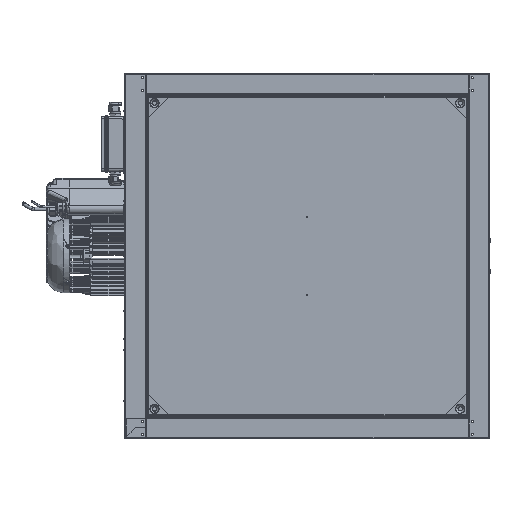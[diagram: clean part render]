
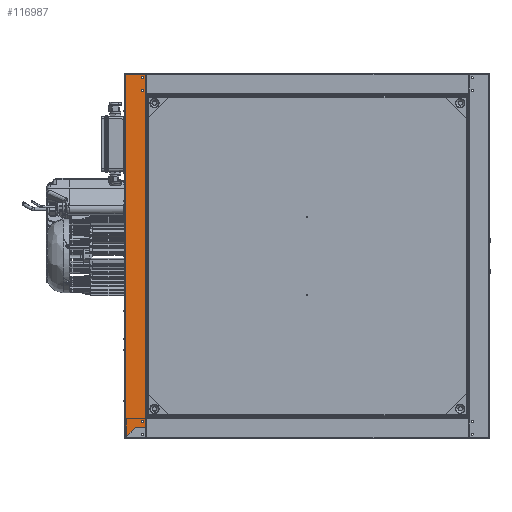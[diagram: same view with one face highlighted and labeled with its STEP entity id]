
A CAD part, left-side view. The second image highlights one B-rep face of the part: STEP entity #116987.
In plain terms, the highlighted planar face has unit normal (-1, 0, 0).
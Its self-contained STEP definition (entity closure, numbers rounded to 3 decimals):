
#923 = VECTOR ( 'NONE', #6390, 1000. ) ;
#1527 = CARTESIAN_POINT ( 'NONE',  ( -350., 310.2, -310.05 ) ) ;
#2945 = AXIS2_PLACEMENT_3D ( 'NONE', #34840, #105318, #44980 ) ;
#3249 = CIRCLE ( 'NONE', #32728, 2.1 ) ;
#5318 = VERTEX_POINT ( 'NONE', #51610 ) ;
#6390 = DIRECTION ( 'NONE',  ( 0., 0.707, -0.707 ) ) ;
#6553 = CIRCLE ( 'NONE', #41898, 2.1 ) ;
#7626 = VECTOR ( 'NONE', #96916, 1000. ) ;
#8737 = VECTOR ( 'NONE', #67823, 1000. ) ;
#9798 = LINE ( 'NONE', #76031, #57072 ) ;
#11147 = VECTOR ( 'NONE', #127526, 1000. ) ;
#11210 = CARTESIAN_POINT ( 'NONE',  ( -350., 316., -317.2 ) ) ;
#11415 = FACE_BOUND ( 'NONE', #79589, .T. ) ;
#11701 = EDGE_CURVE ( 'NONE', #67293, #106055, #92347, .T. ) ;
#11927 = LINE ( 'NONE', #47643, #8737 ) ;
#13214 = CARTESIAN_POINT ( 'NONE',  ( -350., 310.7, 348.95 ) ) ;
#14796 = CIRCLE ( 'NONE', #121477, 2.1 ) ;
#16311 = CARTESIAN_POINT ( 'NONE',  ( -350., 313.9, 341.7 ) ) ;
#18027 = CARTESIAN_POINT ( 'NONE',  ( -350., 348., -347.35 ) ) ;
#18973 = CARTESIAN_POINT ( 'NONE',  ( -350., 316., -317.2 ) ) ;
#19195 = CIRCLE ( 'NONE', #89581, 2.1 ) ;
#19595 = CARTESIAN_POINT ( 'NONE',  ( -350., 310.2, 348. ) ) ;
#20162 = VERTEX_POINT ( 'NONE', #43214 ) ;
#20705 = EDGE_CURVE ( 'NONE', #20162, #80053, #118318, .T. ) ;
#21312 = DIRECTION ( 'NONE',  ( 0., -1., 0. ) ) ;
#21440 = DIRECTION ( 'NONE',  ( -1., 0., 0. ) ) ;
#23270 = CARTESIAN_POINT ( 'NONE',  ( -350., 310.7, -310.05 ) ) ;
#23727 = CARTESIAN_POINT ( 'NONE',  ( -350., 310.7, -310.05 ) ) ;
#23754 = VERTEX_POINT ( 'NONE', #124963 ) ;
#29120 = DIRECTION ( 'NONE',  ( 0., -1., 0. ) ) ;
#29256 = EDGE_CURVE ( 'NONE', #73422, #23754, #6553, .T. ) ;
#32728 = AXIS2_PLACEMENT_3D ( 'NONE', #99253, #38929, #109416 ) ;
#33635 = VERTEX_POINT ( 'NONE', #128234 ) ;
#34281 = ORIENTED_EDGE ( 'NONE', *, *, #118857, .T. ) ;
#34840 = CARTESIAN_POINT ( 'NONE',  ( -350., 316., 317.2 ) ) ;
#36378 = CARTESIAN_POINT ( 'NONE',  ( -350., 310.2, -329.1 ) ) ;
#38929 = DIRECTION ( 'NONE',  ( -1., 0., 0. ) ) ;
#39535 = VECTOR ( 'NONE', #84051, 1000. ) ;
#40386 = EDGE_CURVE ( 'NONE', #5318, #44841, #64369, .T. ) ;
#40723 = EDGE_CURVE ( 'NONE', #96062, #84765, #86353, .T. ) ;
#40969 = CARTESIAN_POINT ( 'NONE',  ( -350., 310.2, -329.1 ) ) ;
#41898 = AXIS2_PLACEMENT_3D ( 'NONE', #18973, #89435, #29120 ) ;
#43214 = CARTESIAN_POINT ( 'NONE',  ( -350., 329.75, -329.1 ) ) ;
#44841 = VERTEX_POINT ( 'NONE', #128829 ) ;
#44980 = DIRECTION ( 'NONE',  ( 0., -1., 0. ) ) ;
#45624 = CARTESIAN_POINT ( 'NONE',  ( -350., 318.1, 341.7 ) ) ;
#45699 = DIRECTION ( 'NONE',  ( 0., 0., 1. ) ) ;
#46760 = CARTESIAN_POINT ( 'NONE',  ( -350., 310.7, 311.65 ) ) ;
#47643 = CARTESIAN_POINT ( 'NONE',  ( -350., 348., 348.95 ) ) ;
#51493 = EDGE_CURVE ( 'NONE', #44841, #33635, #9798, .T. ) ;
#51610 = CARTESIAN_POINT ( 'NONE',  ( -350., 310.7, 311.65 ) ) ;
#54513 = ORIENTED_EDGE ( 'NONE', *, *, #104715, .F. ) ;
#54528 = ORIENTED_EDGE ( 'NONE', *, *, #11701, .F. ) ;
#54573 = LINE ( 'NONE', #76843, #923 ) ;
#54627 = CARTESIAN_POINT ( 'NONE',  ( -350., 348., 348. ) ) ;
#54773 = DIRECTION ( 'NONE',  ( -1., 0., 0. ) ) ;
#55472 = CARTESIAN_POINT ( 'NONE',  ( -350., 310.2, -310.05 ) ) ;
#57072 = VECTOR ( 'NONE', #45699, 1000. ) ;
#57321 = DIRECTION ( 'NONE',  ( 0., 1., 0. ) ) ;
#57560 = EDGE_CURVE ( 'NONE', #129336, #107900, #19195, .T. ) ;
#59291 = VECTOR ( 'NONE', #60120, 1000. ) ;
#59482 = ORIENTED_EDGE ( 'NONE', *, *, #109163, .F. ) ;
#60120 = DIRECTION ( 'NONE',  ( 0., 1., 0. ) ) ;
#61826 = FACE_OUTER_BOUND ( 'NONE', #87193, .T. ) ;
#61932 = DIRECTION ( 'NONE',  ( 0., 0., 1. ) ) ;
#64369 = LINE ( 'NONE', #46760, #7626 ) ;
#64948 = FACE_BOUND ( 'NONE', #85017, .T. ) ;
#65047 = EDGE_CURVE ( 'NONE', #23754, #73422, #14796, .T. ) ;
#66223 = LINE ( 'NONE', #13214, #39535 ) ;
#67293 = VERTEX_POINT ( 'NONE', #82964 ) ;
#67745 = VECTOR ( 'NONE', #61932, 1000. ) ;
#67823 = DIRECTION ( 'NONE',  ( 0., 0., -1. ) ) ;
#68340 = ORIENTED_EDGE ( 'NONE', *, *, #65047, .F. ) ;
#69213 = EDGE_CURVE ( 'NONE', #89131, #109767, #11927, .T. ) ;
#69972 = CIRCLE ( 'NONE', #2945, 2.1 ) ;
#73422 = VERTEX_POINT ( 'NONE', #102348 ) ;
#75691 = ORIENTED_EDGE ( 'NONE', *, *, #51493, .T. ) ;
#76031 = CARTESIAN_POINT ( 'NONE',  ( -350., 310.2, 311.65 ) ) ;
#76403 = ORIENTED_EDGE ( 'NONE', *, *, #40723, .T. ) ;
#76843 = CARTESIAN_POINT ( 'NONE',  ( -350., 349.1, -348.45 ) ) ;
#76880 = ORIENTED_EDGE ( 'NONE', *, *, #57560, .F. ) ;
#79589 = EDGE_LOOP ( 'NONE', ( #76880, #59482 ) ) ;
#80053 = VERTEX_POINT ( 'NONE', #40969 ) ;
#81650 = DIRECTION ( 'NONE',  ( -1., 0., 0. ) ) ;
#81791 = CARTESIAN_POINT ( 'NONE',  ( -350., 316., 317.2 ) ) ;
#82260 = EDGE_CURVE ( 'NONE', #106055, #67293, #69972, .T. ) ;
#82964 = CARTESIAN_POINT ( 'NONE',  ( -350., 318.1, 317.2 ) ) ;
#83212 = VECTOR ( 'NONE', #93747, 1000. ) ;
#83316 = ORIENTED_EDGE ( 'NONE', *, *, #29256, .F. ) ;
#83706 = AXIS2_PLACEMENT_3D ( 'NONE', #81791, #21440, #91917 ) ;
#84051 = DIRECTION ( 'NONE',  ( 0., 0., -1. ) ) ;
#84765 = VERTEX_POINT ( 'NONE', #23270 ) ;
#84770 = AXIS2_PLACEMENT_3D ( 'NONE', #107556, #117678, #57321 ) ;
#85017 = EDGE_LOOP ( 'NONE', ( #110419, #54528 ) ) ;
#86047 = LINE ( 'NONE', #19595, #59291 ) ;
#86353 = LINE ( 'NONE', #23727, #83212 ) ;
#87193 = EDGE_LOOP ( 'NONE', ( #101711, #111225, #54513, #113004, #34281, #76403, #92231, #106305, #75691 ) ) ;
#87233 = PLANE ( 'NONE',  #84770 ) ;
#88598 = FACE_BOUND ( 'NONE', #117563, .T. ) ;
#89131 = VERTEX_POINT ( 'NONE', #54627 ) ;
#89435 = DIRECTION ( 'NONE',  ( -1., 0., 0. ) ) ;
#89581 = AXIS2_PLACEMENT_3D ( 'NONE', #115147, #54773, #125252 ) ;
#91917 = DIRECTION ( 'NONE',  ( 0., -1., 0. ) ) ;
#92231 = ORIENTED_EDGE ( 'NONE', *, *, #118427, .F. ) ;
#92347 = CIRCLE ( 'NONE', #83706, 2.1 ) ;
#93747 = DIRECTION ( 'NONE',  ( 0., 1., 0. ) ) ;
#96062 = VERTEX_POINT ( 'NONE', #55472 ) ;
#96916 = DIRECTION ( 'NONE',  ( 0., -1., 0. ) ) ;
#99253 = CARTESIAN_POINT ( 'NONE',  ( -350., 316., 341.7 ) ) ;
#101711 = ORIENTED_EDGE ( 'NONE', *, *, #121662, .T. ) ;
#102348 = CARTESIAN_POINT ( 'NONE',  ( -350., 313.9, -317.2 ) ) ;
#104715 = EDGE_CURVE ( 'NONE', #20162, #109767, #54573, .T. ) ;
#105318 = DIRECTION ( 'NONE',  ( -1., 0., 0. ) ) ;
#106055 = VERTEX_POINT ( 'NONE', #114916 ) ;
#106305 = ORIENTED_EDGE ( 'NONE', *, *, #40386, .T. ) ;
#107556 = CARTESIAN_POINT ( 'NONE',  ( -350., 350., 348.95 ) ) ;
#107900 = VERTEX_POINT ( 'NONE', #45624 ) ;
#109163 = EDGE_CURVE ( 'NONE', #107900, #129336, #3249, .T. ) ;
#109416 = DIRECTION ( 'NONE',  ( 0., -1., 0. ) ) ;
#109767 = VERTEX_POINT ( 'NONE', #18027 ) ;
#110419 = ORIENTED_EDGE ( 'NONE', *, *, #82260, .F. ) ;
#111225 = ORIENTED_EDGE ( 'NONE', *, *, #69213, .T. ) ;
#113004 = ORIENTED_EDGE ( 'NONE', *, *, #20705, .T. ) ;
#114916 = CARTESIAN_POINT ( 'NONE',  ( -350., 313.9, 317.2 ) ) ;
#115147 = CARTESIAN_POINT ( 'NONE',  ( -350., 316., 341.7 ) ) ;
#116987 = ADVANCED_FACE ( 'NONE', ( #88598, #64948, #11415, #61826 ), #87233, .F. ) ;
#117563 = EDGE_LOOP ( 'NONE', ( #83316, #68340 ) ) ;
#117678 = DIRECTION ( 'NONE',  ( 1., 0., 0. ) ) ;
#118211 = LINE ( 'NONE', #1527, #67745 ) ;
#118318 = LINE ( 'NONE', #36378, #11147 ) ;
#118427 = EDGE_CURVE ( 'NONE', #5318, #84765, #66223, .T. ) ;
#118857 = EDGE_CURVE ( 'NONE', #80053, #96062, #118211, .T. ) ;
#121477 = AXIS2_PLACEMENT_3D ( 'NONE', #11210, #81650, #21312 ) ;
#121662 = EDGE_CURVE ( 'NONE', #33635, #89131, #86047, .T. ) ;
#124963 = CARTESIAN_POINT ( 'NONE',  ( -350., 318.1, -317.2 ) ) ;
#125252 = DIRECTION ( 'NONE',  ( 0., -1., 0. ) ) ;
#127526 = DIRECTION ( 'NONE',  ( 0., -1., 0. ) ) ;
#128234 = CARTESIAN_POINT ( 'NONE',  ( -350., 310.2, 348. ) ) ;
#128829 = CARTESIAN_POINT ( 'NONE',  ( -350., 310.2, 311.65 ) ) ;
#129336 = VERTEX_POINT ( 'NONE', #16311 ) ;
